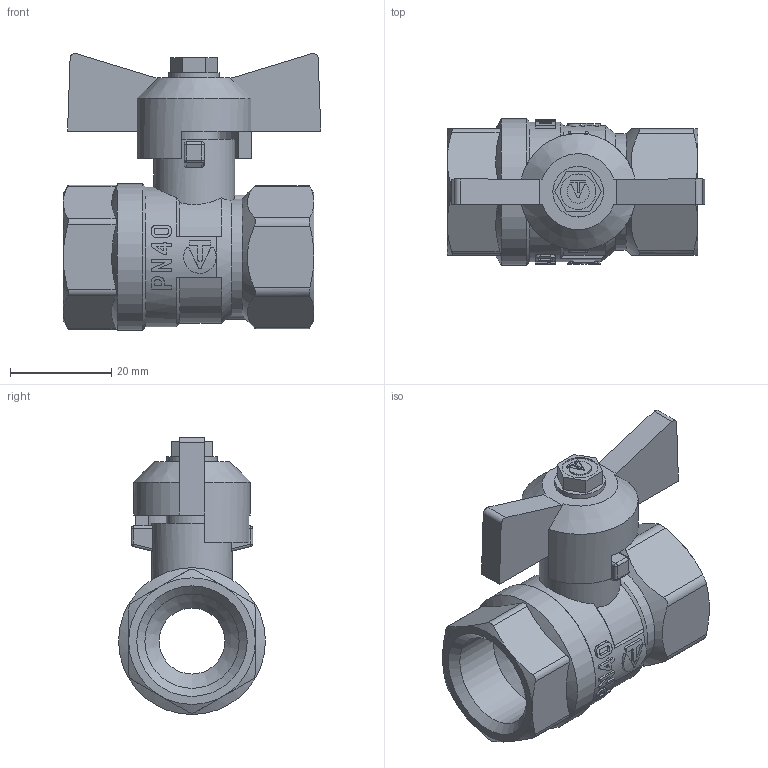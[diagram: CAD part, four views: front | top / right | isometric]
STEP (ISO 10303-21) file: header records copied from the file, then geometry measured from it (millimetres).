
FILE_DESCRIPTION(('STEP AP203'), '1');
FILE_NAME('VT.122.GN.04', '', ('UNSPECIFIED'), ('UNSPECIFIED'), 'C3D Converter', 'C3D Toolkit', '');
FILE_SCHEMA(('CONFIG_CONTROL_DESIGN'));
Length unit declared in the file: millimetre
Products named in the file (1): VT.122.GN.04 
Bounding box: 50.85 x 29 x 54.72 mm (x, y, z)
Volume: 26060 mm3; surface area: 11030.8 mm2
Topology: 1 solids, 1 shells, 307 faces, 801 edges, 514 vertices
Faces by surface type: plane 164, cylinder 111, cone 24, sphere 4, bspline 4
Full cylindrical faces by diameter (mm): 7 x1, 10 x1, 10.2 x1, 13 x1, 16 x1, 18.632 x2, 27.6 x1, 29 x1
Entity records: 12953 total; most frequent: CARTESIAN_POINT 5722, ORIENTED_EDGE 1554, DIRECTION 1385, EDGE_CURVE 777, VERTEX_POINT 514, AXIS2_PLACEMENT_3D 495, LINE 395, VECTOR 395
